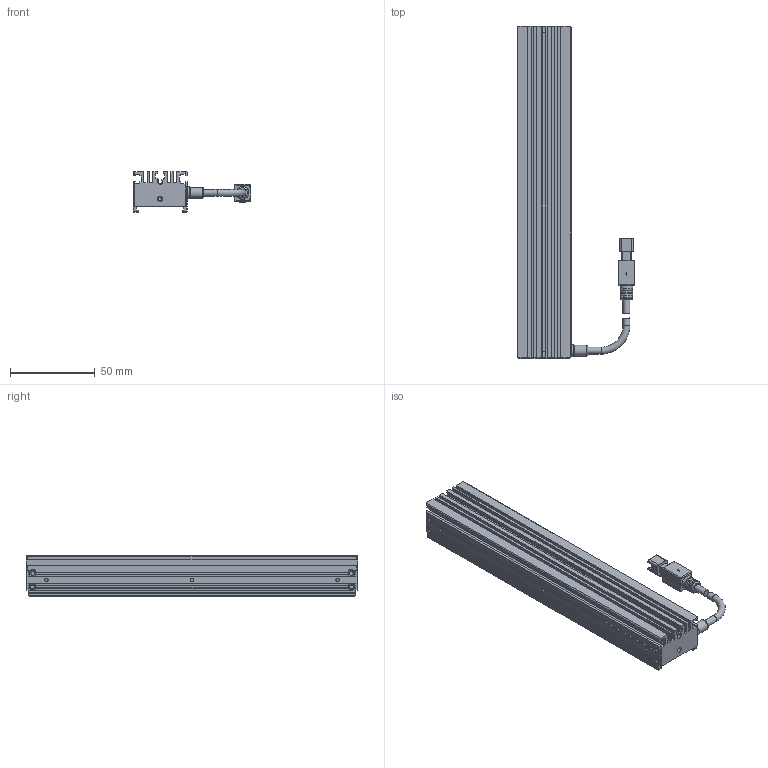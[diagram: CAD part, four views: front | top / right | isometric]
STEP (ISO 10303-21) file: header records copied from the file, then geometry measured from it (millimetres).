
FILE_DESCRIPTION (( 'STEP AP203' ), '1' );
FILE_NAME ('OPT-ULI19632-UV-V1.0 尨砩芞.STEP', '2024-12-10T10:40:10', ( '' ), ( '' ), 'SwSTEP 2.0', 'SolidWorks 2016', '' );
FILE_SCHEMA (( 'CONFIG_CONTROL_DESIGN' ));
Length unit declared in the file: millimetre
Products named in the file (1): OPT-ULI19632-UV-V1.0 尨砩芞
Bounding box: 69.6 x 196 x 24 mm (x, y, z)
Volume: 109153.7 mm3; surface area: 50331.2 mm2
Topology: 6 solids, 14 shells, 591 faces, 1540 edges, 990 vertices
Faces by surface type: plane 402, cylinder 132, cone 28, bspline 21, torus 8
Full cylindrical faces by diameter (mm): 1.1 x2, 1.4 x2, 1.6 x7, 2 x13, 2.4 x7, 2.5 x2, 3 x2, 3.5 x1, 4.1 x4, 6.5 x1, 7 x1, 7.5 x1
Entity records: 18175 total; most frequent: CARTESIAN_POINT 4219, ORIENTED_EDGE 2870, DIRECTION 2756, EDGE_CURVE 1435, LINE 996, VECTOR 996, VERTEX_POINT 960, AXIS2_PLACEMENT_3D 880
